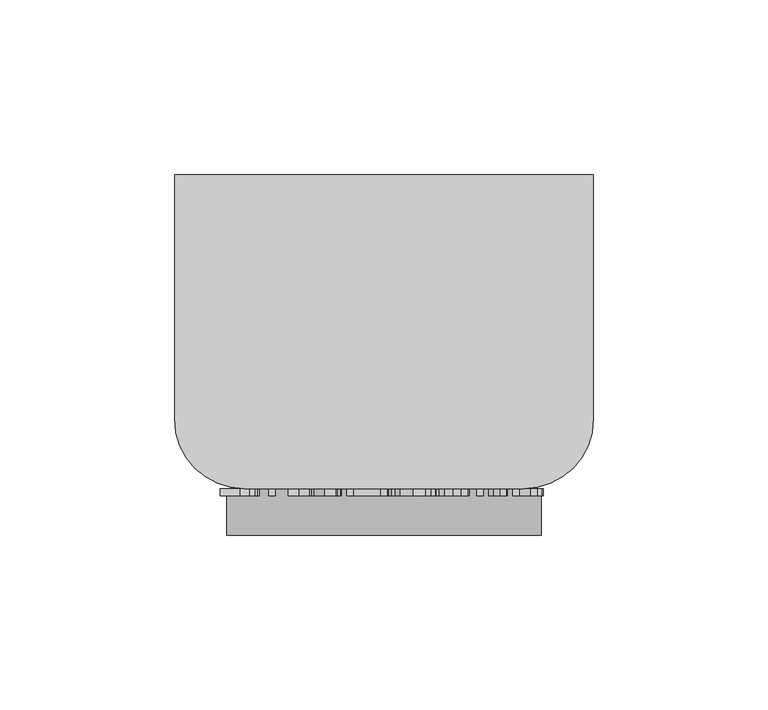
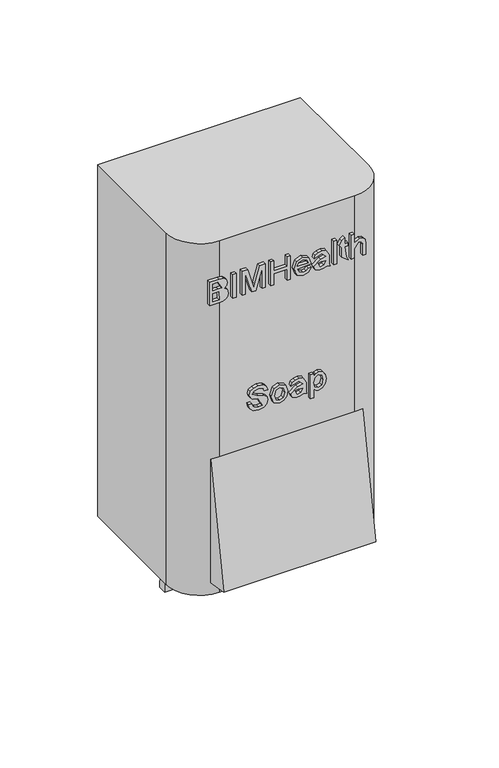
"""IFC4 building model written with IfcOpenShell, lengths in millimetres: furniture geometry, BIMHealth-Soap_Dispenser-LOD2A-v1 : BIMHealth-Soap_Dispenser-LOD2A-v1."""

from ifc_helpers import new_model, si_unit, point, frame, frame_2d, origin, place, context, project, spatial, polyline, circle_curve, trimmed, segment, composite_curve, outline, extrude, source, transform, mapped, element, save
from ifc_brep_helpers import plane_surface, cylinder_surface, advanced_brep


def furniture_26d36cfe(model_context):
    return source(origin(), model_context, "Body", "SolidModel", [
        extrude(outline(polyline([(1382.8683672, 13.1382718), (1382.8683672, 18.7308199), (1383.1225739, 21.0980074), (1383.8725739, 22.7043776), (1385.2860355, 23.7806997), (1387.2710114, 24.2151949), (1389.5678864, 23.5787766), (1390.9452903, 21.7596661), (1392.2523816, 23.2578632), (1393.9777422, 23.7536565), (1395.8671653, 23.1641132), (1397.2031028, 21.5343055), (1397.637598, 18.7740891), (1397.637598, 13.1382718), (1382.8683672, 13.1382718)]), holes=[polyline([(1384.714521, 14.9844257), (1389.7914441, 14.9844257), (1389.7914441, 18.5901949), (1384.714521, 18.7704834), (1384.714521, 14.9844257)]), polyline([(1391.637598, 14.9844257), (1395.7914441, 14.9844257), (1395.7914441, 18.0998103), (1391.7962518, 20.3245699), (1391.637598, 18.3558199), (1391.637598, 14.9844257)])]), frame((0.0, -92.0, 0.0), z_axis=(0.0, 1.0, 0.0), x_axis=(0.0, 0.0, 1.0)), (0.0, 0.0, 1.0), 2.0),
        extrude(outline(polyline([(28.8305795, -92.0), (26.9844257, -92.0), (26.9844257, -90.0), (28.8305795, -90.0), (28.8305795, -92.0)])), frame((0.0, 0.0, 1382.8683672), z_axis=(0.0, 0.0, 1.0), x_axis=(1.0, 0.0, 0.0)), (0.0, 0.0, 1.0), 14.7692308),
        extrude(outline(polyline([(1382.8683672, 32.5228872), (1382.8683672, 34.3690411), (1395.7914441, 34.3690411), (1382.8683672, 38.0829834), (1382.8683672, 40.5817815), (1395.7914441, 44.292118), (1382.8683672, 44.292118), (1382.8683672, 46.1382718), (1397.637598, 46.1382718), (1397.637598, 42.9615891), (1387.4080307, 39.9904353), (1385.0534634, 39.3305795), (1387.2277422, 38.7175988), (1397.637598, 35.6887526), (1397.637598, 32.5228872), (1382.8683672, 32.5228872)])), frame((0.0, -92.0, 0.0), z_axis=(0.0, 1.0, 0.0), x_axis=(0.0, 0.0, 1.0)), (0.0, 0.0, 1.0), 2.0),
        extrude(outline(polyline([(1382.8683672, 49.3690411), (1382.8683672, 51.2151949), (1389.7914441, 51.2151949), (1389.7914441, 59.0613488), (1382.8683672, 59.0613488), (1382.8683672, 60.9075026), (1397.637598, 60.9075026), (1397.637598, 59.0613488), (1391.637598, 59.0613488), (1391.637598, 51.2151949), (1397.637598, 51.2151949), (1397.637598, 49.3690411), (1382.8683672, 49.3690411)])), frame((0.0, -92.0, 0.0), z_axis=(0.0, 1.0, 0.0), x_axis=(0.0, 0.0, 1.0)), (0.0, 0.0, 1.0), 2.0),
        extrude(outline(polyline([(1386.0991364, 71.5012526), (1384.8695691, 70.3113488), (1384.4837518, 68.5012526), (1385.3166845, 66.1232478), (1387.714521, 65.0613488), (1388.2121172, 73.3690411), (1392.4416845, 71.9681997), (1393.9452903, 68.3606276), (1392.4380787, 64.6466853), (1388.2012999, 63.2151949), (1384.0997374, 64.6322622), (1382.637598, 68.4651949), (1383.4849537, 71.6184401), (1385.8683672, 73.3113488), (1386.0991364, 71.5012526)]), holes=[polyline([(1389.5606749, 65.0613488), (1391.4086316, 66.0799786), (1392.0991364, 68.3534161), (1391.2337518, 70.7837045), (1389.5606749, 71.5228872), (1389.5606749, 65.0613488)])]), frame((0.0, -92.0, 0.0), z_axis=(0.0, 1.0, 0.0), x_axis=(0.0, 0.0, 1.0)), (0.0, 0.0, 1.0), 2.0),
        extrude(outline(polyline([(1383.5606749, 82.3690411), (1382.8683672, 84.4459641), (1384.4206509, 84.0781757), (1387.6279826, 83.9844257), (1389.9248576, 83.9844257), (1393.6171653, 82.0643536), (1393.9452903, 79.8269738), (1393.573896, 77.3912766), (1392.5174057, 75.7831036), (1390.714521, 74.9844257), (1391.7439682, 77.7212045), (1392.0991364, 79.588993), (1389.7914441, 82.1274545), (1389.1568287, 78.9255315), (1385.7529826, 74.7536565), (1383.5137999, 75.6893536), (1382.637598, 78.370243), (1383.0017807, 80.3480074), (1383.5606749, 82.3690411)]), holes=[polyline([(1386.9699297, 81.9868295), (1384.9254585, 80.6310603), (1384.4837518, 78.7632718), (1387.0799057, 77.5715651), (1387.3791845, 79.1599065), (1386.9699297, 81.9868295)])]), frame((0.0, -92.0, 0.0), z_axis=(0.0, 1.0, 0.0), x_axis=(0.0, 0.0, 1.0)), (0.0, 0.0, 1.0), 2.0),
        extrude(outline(polyline([(88.3690411, -92.0), (86.5228872, -92.0), (86.5228872, -90.0), (88.3690411, -90.0), (88.3690411, -92.0)])), frame((0.0, 0.0, 1382.8683672), z_axis=(0.0, 0.0, 1.0), x_axis=(1.0, 0.0, 0.0)), (0.0, 0.0, 1.0), 14.7692308),
        extrude(outline(polyline([(1385.152622, 94.1382718), (1391.8683672, 93.2151949), (1391.8683672, 95.0613488), (1393.714521, 95.0613488), (1393.714521, 93.2151949), (1397.4356749, 93.2151949), (1396.3503384, 91.3690411), (1393.714521, 89.9844257), (1391.8683672, 91.3690411), (1385.8431268, 91.3690411), (1382.8142807, 95.292118), (1385.152622, 94.1382718)])), frame((0.0, -92.0, 0.0), z_axis=(0.0, 1.0, 0.0), x_axis=(0.0, 0.0, 1.0)), (0.0, 0.0, 1.0), 2.0),
        extrude(outline(polyline([(1382.8683672, 96.9075026), (1382.8683672, 98.7536565), (1388.6303864, 98.7536565), (1392.0991364, 101.5769738), (1391.4897614, 103.2428391), (1389.542646, 103.8305795), (1382.8683672, 103.8305795), (1382.8683672, 105.6767334), (1389.7337518, 105.6767334), (1392.1604345, 105.2981276), (1393.4711316, 104.0397141), (1393.9452903, 101.9663968), (1392.2073095, 98.7536565), (1397.637598, 98.7536565), (1397.637598, 96.9075026), (1382.8683672, 96.9075026)])), frame((0.0, -92.0, 0.0), z_axis=(0.0, 1.0, 0.0), x_axis=(0.0, 0.0, 1.0)), (0.0, 0.0, 1.0), 2.0),
        extrude(outline(polyline([(1312.9452903, 36.1959641), (1310.1255787, 36.9928391), (1308.2577903, 39.0787766), (1307.637598, 42.3762526), (1308.2127182, 45.1689209), (1309.824497, 47.072767), (1312.0330307, 47.7344257), (1314.120771, 47.1593055), (1315.6171653, 45.3726468), (1316.543848, 42.1058199), (1318.855146, 38.5036565), (1320.387598, 39.3329834), (1321.0222134, 41.9760122), (1320.3803864, 44.6118295), (1318.4837518, 45.6575026), (1318.4837518, 47.5036565), (1320.7950499, 46.7716853), (1322.3419249, 44.8245699), (1322.8683672, 41.9038968), (1322.3653624, 39.167118), (1320.8906028, 37.2975266), (1318.8010595, 36.6575026), (1316.965723, 37.1749305), (1315.5919249, 38.745243), (1314.6814682, 41.6388728), (1309.8208912, 44.2332238), (1309.4837518, 42.3041372), (1309.9290643, 40.0901949), (1311.0973335, 38.6370699), (1312.9452903, 38.042118), (1312.9452903, 36.1959641)])), frame((0.0, -92.0, 0.0), z_axis=(0.0, 1.0, 0.0), x_axis=(0.0, 0.0, 1.0)), (0.0, 0.0, 1.0), 2.0),
        extrude(outline(polyline([(1313.2914441, 49.8113488), (1309.0943287, 51.150892), (1307.637598, 54.6611084), (1308.2992566, 57.1617093), (1310.1580307, 58.9050988), (1313.4428864, 59.5036565), (1317.4831509, 58.1496901), (1318.9452903, 54.6611084), (1317.7445691, 51.4087045), (1313.2914441, 49.8113488)]), holes=[polyline([(1313.2950499, 51.6575026), (1316.152622, 52.5120699), (1317.0991364, 54.6611084), (1316.1490162, 56.7975266), (1313.3527422, 57.6575026), (1310.4392807, 56.8029353), (1309.4837518, 54.6611084), (1310.433872, 52.5120699), (1313.2950499, 51.6575026)])]), frame((0.0, -92.0, 0.0), z_axis=(0.0, 1.0, 0.0), x_axis=(0.0, 0.0, 1.0)), (0.0, 0.0, 1.0), 2.0),
        extrude(outline(polyline([(1308.5606749, 68.7344257), (1307.8683672, 70.8113488), (1309.4206509, 70.4435603), (1312.6279826, 70.3498103), (1314.9248576, 70.3498103), (1318.6171653, 68.4297382), (1318.9452903, 66.1923584), (1318.573896, 63.7566613), (1317.5174057, 62.1484882), (1315.714521, 61.3498103), (1316.7439682, 64.0865891), (1317.0991364, 65.9543776), (1314.7914441, 68.4928391), (1314.1568287, 65.2909161), (1310.7529826, 61.1190411), (1308.5137999, 62.0547382), (1307.637598, 64.7356276), (1308.0017807, 66.713392), (1308.5606749, 68.7344257)]), holes=[polyline([(1311.9699297, 68.3522141), (1309.9254585, 66.9964449), (1309.4837518, 65.1286565), (1312.0799057, 63.9369497), (1312.3791845, 65.5252911), (1311.9699297, 68.3522141)])]), frame((0.0, -92.0, 0.0), z_axis=(0.0, 1.0, 0.0), x_axis=(0.0, 0.0, 1.0)), (0.0, 0.0, 1.0), 2.0),
        extrude(outline(polyline([(1303.714521, 72.8882718), (1303.714521, 74.7344257), (1309.3106749, 74.7344257), (1308.1117566, 75.9044978), (1307.637598, 77.510868), (1308.3461316, 79.8456036), (1310.3833912, 81.5367093), (1313.3743768, 82.1190411), (1316.2193287, 81.6034161), (1318.231348, 80.0745699), (1318.9452903, 77.7344257), (1318.4350739, 76.010868), (1316.9044249, 74.7344257), (1318.714521, 74.7344257), (1318.714521, 72.8882718), (1303.714521, 72.8882718)]), holes=[polyline([(1313.2049057, 74.7344257), (1316.1021412, 75.5871901), (1317.0991364, 77.5469257), (1316.1616364, 79.4688007), (1313.3419249, 80.2728872), (1310.4248576, 79.448969), (1309.4837518, 77.4712045), (1310.3924057, 75.5331036), (1313.2049057, 74.7344257)])]), frame((0.0, -92.0, 0.0), z_axis=(0.0, 1.0, 0.0), x_axis=(0.0, 0.0, 1.0)), (0.0, 0.0, 1.0), 2.0),
        extrude(outline(composite_curve([segment(trimmed(circle_curve(frame_2d((60.0, -61.6073569)), 10.0), [point((50.0, -61.6073569))], [point((70.0, -61.6073569))], False, "CARTESIAN"), True, "CONTINUOUS"), segment(trimmed(circle_curve(frame_2d((60.0, -61.6073569)), 10.0), [point((70.0, -61.6073569))], [point((50.0, -61.6073569))], False, "CARTESIAN"), True, "CONTINUOUS")], self_intersect=False)), frame((0.0, 0.0, 1190.0), z_axis=(0.0, 0.0, 1.0), x_axis=(1.0, 0.0, 0.0)), (0.0, 0.0, 1.0), 10.0),
        advanced_brep(
        [(105.0, -90.0, 1285.0), (105.0, -103.2245236, 1210.0), (105.0, -90.0, 1207.6681597), (15.0, -90.0, 1285.0), (15.0, -90.0, 1207.6681597), (15.0, -103.2245236, 1210.0), (100.0, -90.0, 1285.0), (20.0, -90.0, 1285.0), (20.0, -90.0, 1207.6681597), (100.0, -90.0, 1207.6681597), (120.0, 0.0, 1420.0), (0.0, 0.0, 1420.0), (0.0, -70.0, 1420.0), (20.0, -90.0, 1420.0), (100.0, -90.0, 1420.0), (120.0, -70.0, 1420.0), (120.0, 0.0, 1200.0), (120.0, -70.0, 1200.0), (100.0, -90.0, 1200.0), (20.0, -90.0, 1200.0), (0.0, -70.0, 1200.0), (0.0, 0.0, 1200.0)],
        [
            (0, 1),
            (1, 2),
            (2, 0),
            (3, 4),
            (4, 5),
            (5, 3),
            (0, 6),
            (6, 7),
            (7, 3),
            (5, 1),
            (4, 8),
            (8, 9),
            (9, 2),
            (9, 6),
            (7, 8),
            (10, 11),
            (11, 12),
            (12, 13, circle_curve(frame((20.0, -70.0, 1420.0), z_axis=(0.0, 0.0, 1.0), x_axis=(1.0, 0.0, 0.0)), 20.0)),
            (13, 14),
            (14, 15, circle_curve(frame((100.0, -70.0, 1420.0), z_axis=(0.0, 0.0, 1.0), x_axis=(-1.0, 0.0, 0.0)), 20.0)),
            (15, 10),
            (16, 17),
            (17, 18, circle_curve(frame((100.0, -70.0, 1200.0), z_axis=(0.0, 0.0, -1.0), x_axis=(-1.0, 0.0, 0.0)), 20.0)),
            (18, 19),
            (19, 20, circle_curve(frame((20.0, -70.0, 1200.0), z_axis=(0.0, 0.0, -1.0), x_axis=(1.0, 0.0, 0.0)), 20.0)),
            (20, 21),
            (21, 16),
            (10, 16),
            (21, 11),
            (20, 12),
            (19, 8),
            (7, 13),
            (6, 14),
            (18, 9),
            (17, 15),
        ],
        [
            plane_surface(frame((105.0, -90.0, 1285.0), z_axis=(1.0000000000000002, 0.0, 0.0), x_axis=(0.0, -0.1736481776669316, -0.9848077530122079))),
            plane_surface(frame((15.0, -90.0, 1285.0), z_axis=(-1.0000000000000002, 0.0, 0.0), x_axis=(0.0, 0.1736481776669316, 0.9848077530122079))),
            plane_surface(frame((105.0, -90.0, 1285.0), z_axis=(0.0, -0.9848077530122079, 0.1736481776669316), x_axis=(-1.0, 0.0, 0.0))),
            plane_surface(frame((105.0, -103.2245236, 1210.0), z_axis=(0.0, -0.1736481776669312, -0.9848077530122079), x_axis=(-1.0, 0.0, 0.0))),
            plane_surface(frame((105.0, -90.0, 1207.6681597), z_axis=(0.0, 1.0, 0.0), x_axis=(-1.0, 0.0, 0.0))),
            plane_surface(frame((0.0, 0.0, 1420.0), z_axis=(0.0, 0.0, 1.0), x_axis=(-1.0, 0.0, 0.0))),
            plane_surface(frame((0.0, 0.0, 1200.0), z_axis=(0.0, 0.0, -1.0), x_axis=(1.0, 0.0, 0.0))),
            plane_surface(frame((120.0, 0.0, 1420.0), z_axis=(0.0, 1.0, 0.0), x_axis=(0.0, 0.0, -1.0))),
            plane_surface(frame((0.0, 0.0, 1420.0), z_axis=(-1.0, 0.0, 0.0), x_axis=(0.0, 0.0, -1.0))),
            cylinder_surface(frame((20.0, -70.0, 1200.0), z_axis=(0.0, 0.0, 1.0), x_axis=(1.0, 0.0, 0.0)), 20.0),
            plane_surface(frame((20.0, -90.0, 1420.0), z_axis=(0.0, -1.0, 0.0), x_axis=(0.0, 0.0, -1.0))),
            cylinder_surface(frame((100.0, -70.0, 1200.0), z_axis=(0.0, 0.0, 1.0), x_axis=(-1.0, 0.0, 0.0)), 20.0),
            plane_surface(frame((120.0, -70.0, 1420.0), z_axis=(1.0, 0.0, 0.0), x_axis=(0.0, 0.0, -1.0))),
        ],
        [
            (0, [[1, 2, 3]]),
            (1, [[4, 5, 6]]),
            (2, [[-1, 7, 8, 9, -6, 10]]),
            (3, [[-2, -10, -5, 11, 12, 13]]),
            (4, [[-3, -13, 14, -7]]),
            (4, [[-4, -9, 15, -11]]),
            (5, [[16, 17, 18, 19, 20, 21]]),
            (6, [[22, 23, 24, 25, 26, 27]]),
            (7, [[-16, 28, -27, 29]]),
            (8, [[-17, -29, -26, 30]]),
            (9, [[-18, -30, -25, 31, -15, 32]]),
            (10, [[-19, -32, -8, 33]]),
            (10, [[-24, 34, -12, -31]]),
            (11, [[-20, -33, -14, -34, -23, 35]]),
            (12, [[-21, -35, -22, -28]]),
        ],
    ),
        extrude(outline(composite_curve([segment(polyline([(-29.0586666, 1166.1925961), (-34.1073569, 1166.1925961)]), True, "CONTINUOUS"), segment(trimmed(circle_curve(frame_2d((14.5207715, 1172.632854)), 49.052745), [point((-34.1073569, 1166.1925961))], [point((-26.1880864, 1200.0))], False, "CARTESIAN"), True, "CONTINUOUS"), segment(polyline([(-26.1880864, 1200.0), (-20.0, 1200.0)]), True, "CONTINUOUS"), segment(trimmed(circle_curve(frame_2d((14.5207715, 1172.632854)), 44.052745), [point((-20.0, 1200.0))], [point((-29.0586666, 1166.1925961))], True, "CARTESIAN"), True, "CONTINUOUS")], self_intersect=False)), frame((20.0, 0.0, 0.0), z_axis=(1.0, 0.0, 0.0), x_axis=(0.0, 1.0, 0.0)), (0.0, 0.0, 1.0), 80.0),
    ])


if __name__ == "__main__":
    model = new_model("IFC4")
    model_context = context("Model", 3, world=origin())
    ifc_project = project(units=[si_unit("LENGTHUNIT", "METRE", prefix="MILLI")], contexts=[model_context])
    site = spatial("IfcSite", under=ifc_project)
    building = spatial("IfcBuilding", under=site)
    placement = place(None, origin())
    furniture_shape = furniture_26d36cfe(model_context)
    element("IfcFurniture", 1, ObjectType="BIMHealth-Soap_Dispenser-LOD2A-v1 : BIMHealth-Soap_Dispenser-LOD2A-v1", at=placement, inside=building, context=model_context, shape_type="MappedRepresentation", body=[
        mapped(furniture_shape, transform((0.0, 0.0, 0.0), x_axis=(1.0, 0.0, 0.0), y_axis=(0.0, 1.0, 0.0), z_axis=(0.0, 0.0, 1.0))),
    ])
    save(model, "model.ifc")
